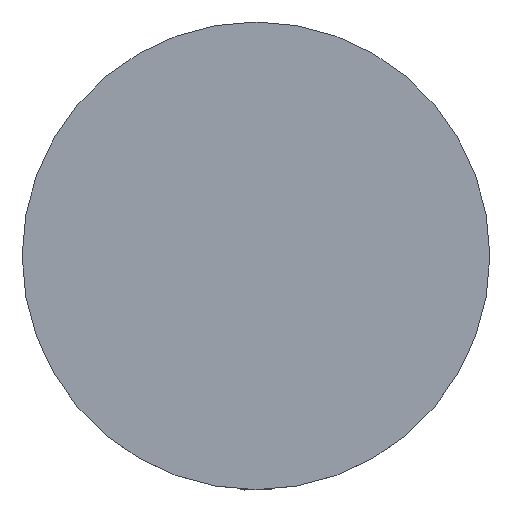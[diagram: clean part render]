
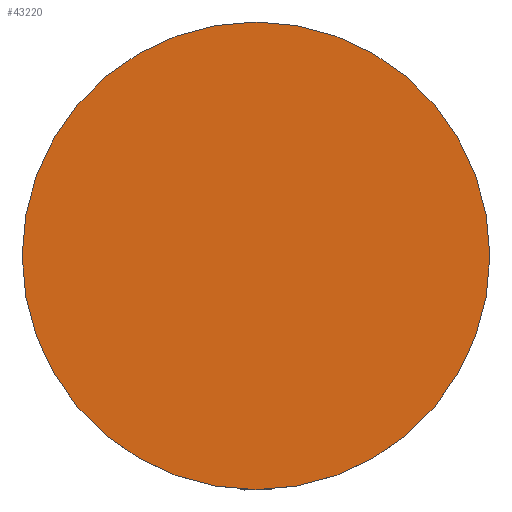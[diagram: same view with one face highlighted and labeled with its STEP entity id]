
A CAD part, top view. The second image highlights one B-rep face of the part: STEP entity #43220.
In plain terms, the highlighted planar face has unit normal (0, 0, 1).
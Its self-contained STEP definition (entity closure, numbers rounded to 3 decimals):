
#43153=CARTESIAN_POINT('',(0.,0.,20.));
#43154=DIRECTION('',(0.,0.,-1.));
#43155=DIRECTION('',(-1.,0.,0.));
#43156=AXIS2_PLACEMENT_3D('',#43153,#43154,#43155);
#43158=CARTESIAN_POINT('',(0.,0.,20.));
#43159=DIRECTION('',(0.,0.,-1.));
#43160=DIRECTION('',(1.,0.,0.));
#43161=AXIS2_PLACEMENT_3D('',#43158,#43159,#43160);
#43167=CARTESIAN_POINT('',(350.,0.,20.));
#43168=VERTEX_POINT('',#43167);
#43169=CARTESIAN_POINT('',(-350.,0.,20.));
#43170=VERTEX_POINT('',#43169);
#43211=CARTESIAN_POINT('',(0.,0.,20.));
#43212=DIRECTION('',(0.,0.,1.));
#43213=DIRECTION('',(1.,0.,0.));
#43214=AXIS2_PLACEMENT_3D('',#43211,#43212,#43213);
#43215=PLANE('',#43214);
#43216=ORIENTED_EDGE('',*,*,#43191,.T.);
#43217=ORIENTED_EDGE('',*,*,#43205,.T.);
#43218=EDGE_LOOP('',(#43216,#43217));
#43219=FACE_OUTER_BOUND('',#43218,.F.);
#43220=ADVANCED_FACE('',(#43219),#43215,.T.);
#43157=CIRCLE('',#43156,350.);
#43162=CIRCLE('',#43161,350.);
#43191=EDGE_CURVE('',#43170,#43168,#43157,.T.);
#43205=EDGE_CURVE('',#43168,#43170,#43162,.T.);
